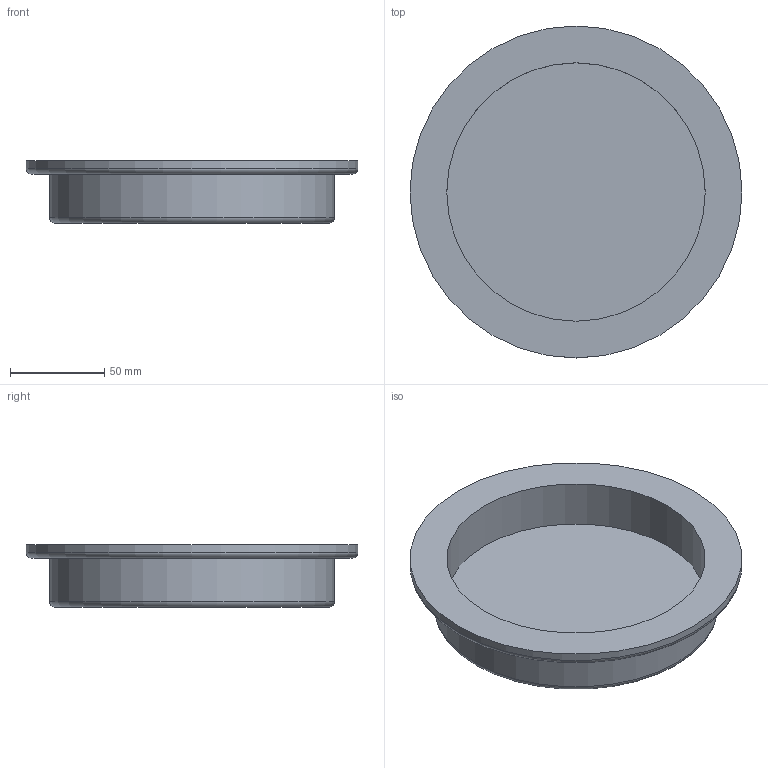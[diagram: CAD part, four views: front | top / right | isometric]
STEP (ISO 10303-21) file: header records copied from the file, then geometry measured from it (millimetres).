
FILE_DESCRIPTION((''),'2;1');
FILE_NAME('U:\Wolfgang\Marcel-3D\fertig\Kapitel 4\1501140.stp','2011-04-21T08:26:21',('TK1'),(''),'Autodesk Inventor 2010','Autodesk Inventor 2010','');
FILE_SCHEMA(('AUTOMOTIVE_DESIGN { 1 0 10303 214 1 1 1 1 }'));
Length unit declared in the file: millimetre
Products named in the file (1): 1501140
Bounding box: 176 x 176 x 33 mm (x, y, z)
Volume: 250666.4 mm3; surface area: 74720.9 mm2
Topology: 1 solids, 1 shells, 9 faces, 13 edges, 8 vertices
Faces by surface type: plane 4, cylinder 3, torus 2
Full cylindrical faces by diameter (mm): 137 x1, 151 x1, 176 x1
Entity records: 200 total; most frequent: DIRECTION 36, CARTESIAN_POINT 26, AXIS2_PLACEMENT_3D 18, ORIENTED_EDGE 16, EDGE_LOOP 16, FACE_OUTER_BOUND 9, ADVANCED_FACE 9, VERTEX_POINT 8
